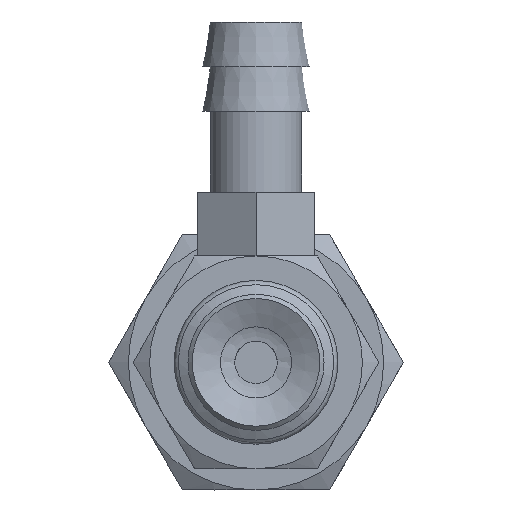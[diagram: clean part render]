
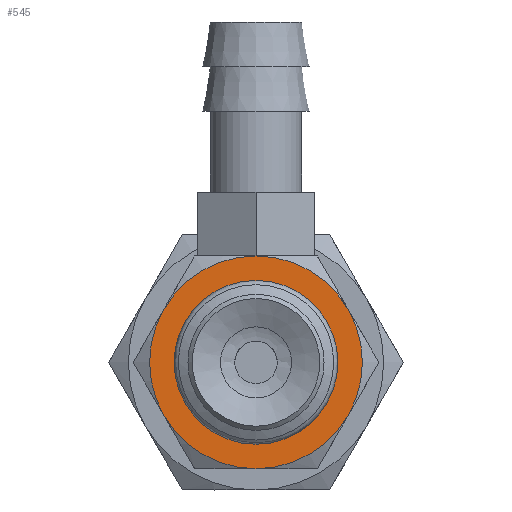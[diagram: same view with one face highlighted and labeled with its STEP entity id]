
A CAD part, front view. The second image highlights one B-rep face of the part: STEP entity #545.
In plain terms, the highlighted planar face has unit normal (0, -1, 0).
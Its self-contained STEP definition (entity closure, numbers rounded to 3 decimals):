
#545=ADVANCED_FACE('',(#799,#800),#801,.T.);
#799=FACE_BOUND('',#1131,.T.);
#800=FACE_OUTER_BOUND('',#1132,.T.);
#801=PLANE('',#1133);
#1131=EDGE_LOOP('',(#1902));
#1132=EDGE_LOOP('',(#1903,#1904,#1905,#1906,#1907,#1908));
#1133=AXIS2_PLACEMENT_3D('',#1909,#1910,#1911);
#1902=ORIENTED_EDGE('',*,*,#2326,.F.);
#1903=ORIENTED_EDGE('',*,*,#2279,.T.);
#1904=ORIENTED_EDGE('',*,*,#2273,.T.);
#1905=ORIENTED_EDGE('',*,*,#2328,.T.);
#1906=ORIENTED_EDGE('',*,*,#2337,.T.);
#1907=ORIENTED_EDGE('',*,*,#2257,.T.);
#1908=ORIENTED_EDGE('',*,*,#2314,.T.);
#1909=CARTESIAN_POINT('',(2.0,0.,0.0));
#1910=DIRECTION('',(0.0,-1.0,0.0));
#1911=DIRECTION('',(0.0,0.0,-1.0));
#2257=EDGE_CURVE('',#2547,#2561,#2563,.T.);
#2273=EDGE_CURVE('',#2579,#2590,#2592,.T.);
#2279=EDGE_CURVE('',#2593,#2579,#2602,.T.);
#2314=EDGE_CURVE('',#2561,#2593,#2662,.T.);
#2326=EDGE_CURVE('',#2681,#2681,#2682,.T.);
#2328=EDGE_CURVE('',#2590,#2564,#2684,.T.);
#2337=EDGE_CURVE('',#2564,#2547,#2696,.T.);
#2547=VERTEX_POINT('',#3235);
#2561=VERTEX_POINT('',#3261);
#2563=CIRCLE('',#3265,5.0);
#2564=VERTEX_POINT('',#3266);
#2579=VERTEX_POINT('',#3292);
#2590=VERTEX_POINT('',#3313);
#2592=CIRCLE('',#3317,5.0);
#2593=VERTEX_POINT('',#3318);
#2602=CIRCLE('',#3336,5.0);
#2662=CIRCLE('',#3474,5.0);
#2681=VERTEX_POINT('',#3501);
#2682=CIRCLE('',#3502,2.0);
#2684=CIRCLE('',#3506,5.0);
#2696=CIRCLE('',#3522,5.0);
#3235=CARTESIAN_POINT('',(-4.33,0.,2.5));
#3261=CARTESIAN_POINT('',(-4.33,0.0,-2.5));
#3265=AXIS2_PLACEMENT_3D('',#3770,#3771,#3772);
#3266=CARTESIAN_POINT('',(0.0,0.0,5.0));
#3292=CARTESIAN_POINT('',(4.33,0.0,-2.5));
#3313=CARTESIAN_POINT('',(4.33,0.0,2.5));
#3317=AXIS2_PLACEMENT_3D('',#3782,#3783,#3784);
#3318=CARTESIAN_POINT('',(0.0,0.0,-5.0));
#3336=AXIS2_PLACEMENT_3D('',#3786,#3787,#3788);
#3474=AXIS2_PLACEMENT_3D('',#3838,#3839,#3840);
#3501=CARTESIAN_POINT('',(0.0,0.,-2.0));
#3502=AXIS2_PLACEMENT_3D('',#3859,#3860,#3861);
#3506=AXIS2_PLACEMENT_3D('',#3862,#3863,#3864);
#3522=AXIS2_PLACEMENT_3D('',#3882,#3883,#3884);
#3770=CARTESIAN_POINT('',(0.0,0.,0.0));
#3771=DIRECTION('',(0.0,-1.0,0.0));
#3772=DIRECTION('',(0.0,0.0,-1.0));
#3782=CARTESIAN_POINT('',(0.0,0.,0.0));
#3783=DIRECTION('',(0.0,-1.0,0.0));
#3784=DIRECTION('',(0.0,0.0,-1.0));
#3786=CARTESIAN_POINT('',(0.0,0.,0.0));
#3787=DIRECTION('',(0.0,-1.0,0.0));
#3788=DIRECTION('',(0.0,0.0,-1.0));
#3838=CARTESIAN_POINT('',(0.0,0.,0.0));
#3839=DIRECTION('',(0.0,-1.0,0.0));
#3840=DIRECTION('',(0.0,0.0,-1.0));
#3859=CARTESIAN_POINT('',(0.0,0.,0.0));
#3860=DIRECTION('',(0.0,-1.0,0.0));
#3861=DIRECTION('',(0.0,0.0,-1.0));
#3862=CARTESIAN_POINT('',(0.0,0.,0.0));
#3863=DIRECTION('',(0.0,-1.0,0.0));
#3864=DIRECTION('',(0.0,0.0,-1.0));
#3882=CARTESIAN_POINT('',(0.0,0.,0.0));
#3883=DIRECTION('',(0.0,-1.0,0.0));
#3884=DIRECTION('',(0.0,0.0,-1.0));
